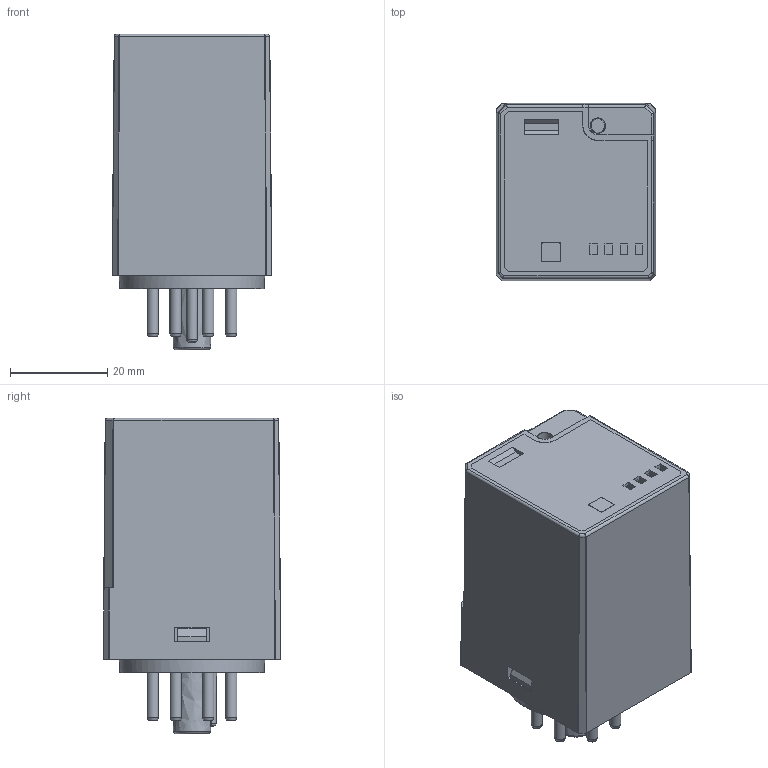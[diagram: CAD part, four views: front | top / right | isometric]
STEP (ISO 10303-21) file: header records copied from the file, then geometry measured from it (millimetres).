
FILE_DESCRIPTION(('STEP AP214'),'2;1');
FILE_NAME('60_12---52_FINITO.stp','2010-12-02T16:52:33',(''),(''),'2007.1.106','THINKDESIGN','');
FILE_SCHEMA(('AUTOMOTIVE_DESIGN'));
Length unit declared in the file: millimetre
Products named in the file (1): None
Bounding box: 32.8 x 36.5 x 64.75 mm (x, y, z)
Surface area: 11282.5 mm2 (no closed solid volume)
Topology: 0 solids, 0 shells, 204 faces, 1075 edges, 987 vertices
Faces by surface type: plane 96, bspline 57, cylinder 51
Full cylindrical faces by diameter (mm): 1.65 x8, 2.35 x8
Entity records: 13208 total; most frequent: CARTESIAN_POINT 6097, DIRECTION 1128, COMPOSITE_CURVE_SEGMENT 1069, TRIMMED_CURVE 717, VECTOR 664, LINE 664, AXIS2_PLACEMENT_3D 232, OUTER_BOUNDARY_CURVE 204
